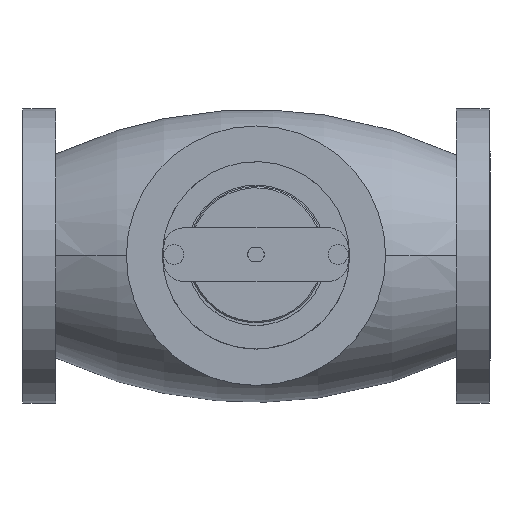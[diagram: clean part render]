
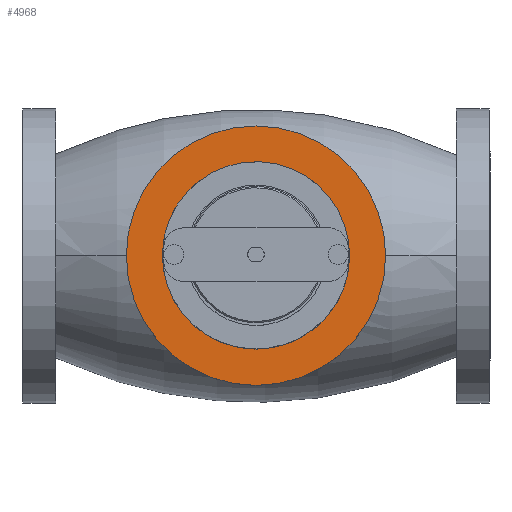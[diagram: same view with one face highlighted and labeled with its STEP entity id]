
A CAD part, top view. The second image highlights one B-rep face of the part: STEP entity #4968.
In plain terms, the highlighted planar face has unit normal (0, 0, 1).
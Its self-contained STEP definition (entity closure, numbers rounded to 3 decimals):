
#45 = DIRECTION ( 'NONE',  ( 0., 0., -1. ) ) ;
#336 = CARTESIAN_POINT ( 'NONE',  ( 18.328, 11.593, 74.08 ) ) ;
#363 = DIRECTION ( 'NONE',  ( -1., 0., 0. ) ) ;
#366 = DIRECTION ( 'NONE',  ( 0., 0., -1. ) ) ;
#887 = CARTESIAN_POINT ( 'NONE',  ( 18.328, 11.593, 74.08 ) ) ;
#917 = DIRECTION ( 'NONE',  ( 1., 0., 0. ) ) ;
#940 = CARTESIAN_POINT ( 'NONE',  ( 18.328, 11.593, 74.08 ) ) ;
#964 = EDGE_CURVE ( 'NONE', #4350, #10189, #2706, .T. ) ;
#992 = DIRECTION ( 'NONE',  ( 1., 0., 0. ) ) ;
#1510 = AXIS2_PLACEMENT_3D ( 'NONE', #940, #6526, #8915 ) ;
#1721 = FACE_OUTER_BOUND ( 'NONE', #9563, .T. ) ;
#2335 = AXIS2_PLACEMENT_3D ( 'NONE', #8640, #4499, #363 ) ;
#2530 = EDGE_CURVE ( 'NONE', #8685, #5686, #4410, .T. ) ;
#2669 = AXIS2_PLACEMENT_3D ( 'NONE', #887, #45, #992 ) ;
#2704 = CARTESIAN_POINT ( 'NONE',  ( 115.328, 11.593, 74.08 ) ) ;
#2706 = CIRCLE ( 'NONE', #10004, 11.593 ) ;
#3158 = ORIENTED_EDGE ( 'NONE', *, *, #2530, .F. ) ;
#3945 = ORIENTED_EDGE ( 'NONE', *, *, #9907, .T. ) ;
#4161 = FACE_BOUND ( 'NONE', #8702, .T. ) ;
#4350 = VERTEX_POINT ( 'NONE', #9453 ) ;
#4410 = CIRCLE ( 'NONE', #1510, 97. ) ;
#4499 = DIRECTION ( 'NONE',  ( 0., 0., -1. ) ) ;
#4968 = ADVANCED_FACE ( 'NONE', ( #4161, #1721 ), #7607, .T. ) ;
#5686 = VERTEX_POINT ( 'NONE', #2704 ) ;
#5716 = CIRCLE ( 'NONE', #2335, 97. ) ;
#5753 = ORIENTED_EDGE ( 'NONE', *, *, #964, .T. ) ;
#6526 = DIRECTION ( 'NONE',  ( 0., 0., -1. ) ) ;
#7108 = AXIS2_PLACEMENT_3D ( 'NONE', #336, #8193, #917 ) ;
#7293 = EDGE_CURVE ( 'NONE', #5686, #8685, #5716, .T. ) ;
#7581 = CARTESIAN_POINT ( 'NONE',  ( 18.328, 11.593, 74.08 ) ) ;
#7604 = ORIENTED_EDGE ( 'NONE', *, *, #7293, .F. ) ;
#7607 = PLANE ( 'NONE',  #7108 ) ;
#8193 = DIRECTION ( 'NONE',  ( 0., 0., 1. ) ) ;
#8242 = CIRCLE ( 'NONE', #2669, 11.593 ) ;
#8640 = CARTESIAN_POINT ( 'NONE',  ( 18.328, 11.593, 74.08 ) ) ;
#8685 = VERTEX_POINT ( 'NONE', #8768 ) ;
#8702 = EDGE_LOOP ( 'NONE', ( #3945, #5753 ) ) ;
#8768 = CARTESIAN_POINT ( 'NONE',  ( -78.672, 11.593, 74.08 ) ) ;
#8915 = DIRECTION ( 'NONE',  ( -1., 0., 0. ) ) ;
#9453 = CARTESIAN_POINT ( 'NONE',  ( 6.735, 11.593, 74.08 ) ) ;
#9563 = EDGE_LOOP ( 'NONE', ( #7604, #3158 ) ) ;
#9732 = CARTESIAN_POINT ( 'NONE',  ( 29.92, 11.593, 74.08 ) ) ;
#9907 = EDGE_CURVE ( 'NONE', #10189, #4350, #8242, .T. ) ;
#10004 = AXIS2_PLACEMENT_3D ( 'NONE', #7581, #366, #10086 ) ;
#10086 = DIRECTION ( 'NONE',  ( 1., 0., 0. ) ) ;
#10189 = VERTEX_POINT ( 'NONE', #9732 ) ;
